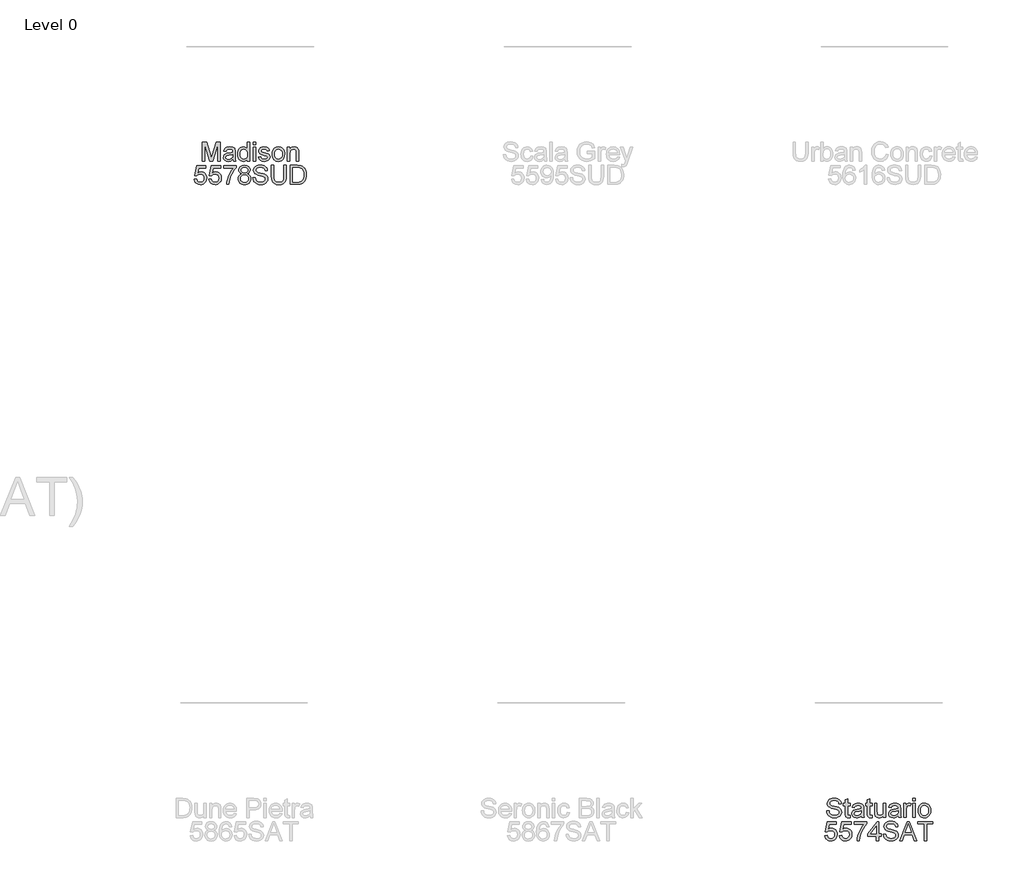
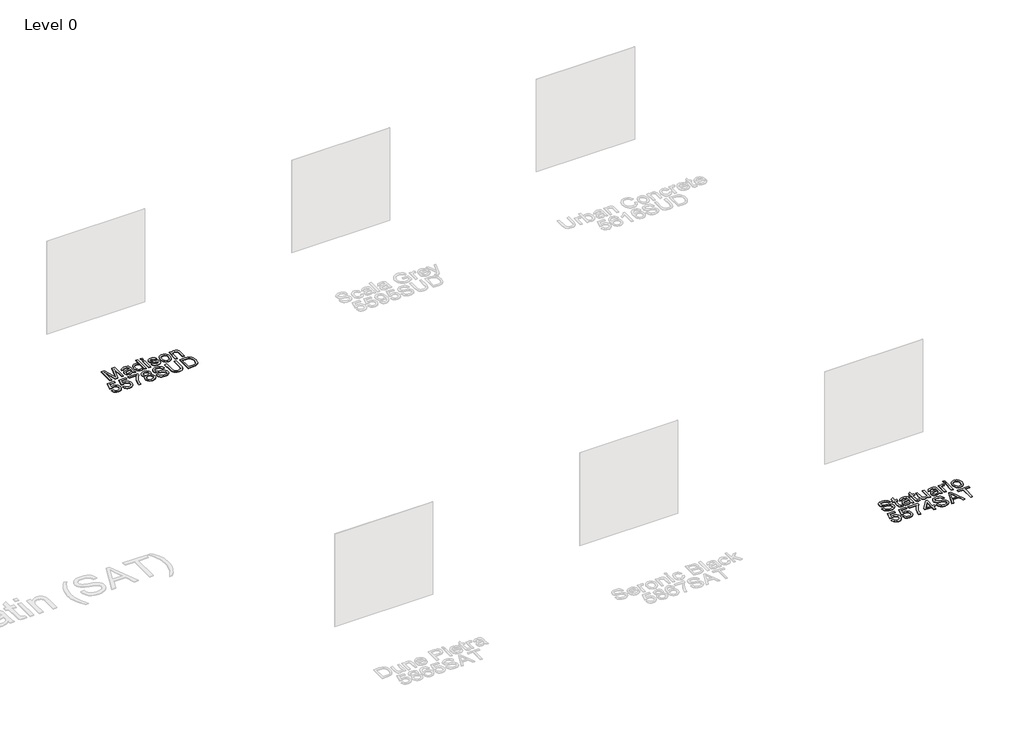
# One storey, part 14 of 29: 2 proxies.
"""IFC4 building model written with IfcOpenShell, lengths in millimetres."""

from ifc_helpers import new_model, si_unit, origin, origin_with_axes, place, context, project, spatial, polyline, outline, extrude, element, save

model = new_model("IFC4")

# Units and contexts
model_context = context("Model", 3, world=origin())
ifc_project = project(units=[si_unit("LENGTHUNIT", "METRE", prefix="MILLI")], contexts=[model_context])

# Site, building, storey
site = spatial("IfcSite", under=ifc_project)
building = spatial("IfcBuilding", under=site)
storey = spatial("IfcBuildingStorey", under=building, Name="Level 0", Elevation=0.0)

# Proxies
placement = place(None, origin())
element("IfcBuildingElementProxy", 1, Name="300mm Arial", ObjectType="300mm Arial", at=placement, inside=storey, context=model_context, shape_type="SweptSolid", body=[
    extrude(outline(polyline([(-104.0803824, -17012.860494), (-104.0803824, -16711.4915635), (-39.2595749, -16711.4915635), (22.3974475, -16923.9066275), (34.8318589, -16968.2731962), (48.29634, -16920.2278076), (108.9232928, -16711.4915635), (173.7441003, -16711.4915635), (173.7441003, -17012.860494), (136.072984, -17012.860494), (136.072984, -16749.1626798), (60.3628694, -17012.860494), (9.3008485, -17012.860494), (-66.4092661, -16749.1626798), (-66.4092661, -17012.860494), (-104.0803824, -17012.860494)])), origin_with_axes(), (0.0, 0.0, 1.0), 10.0),
    extrude(outline(polyline([(376.2263505, -16984.6071568), (358.2277239, -17000.0398064), (339.6956684, -17010.1381672), (320.2071197, -17015.7115794), (299.3390135, -17017.5693835), (267.8575117, -17013.0996173), (244.6349608, -16999.6903186), (230.3151541, -16979.3280501), (225.5418852, -16953.9993748), (227.344507, -16938.3827841), (232.7523724, -16924.2009331), (241.0940966, -16912.0608273), (251.6982951, -16902.5694718), (278.0754342, -16890.2086368), (310.6697789, -16884.5432541), (349.1870238, -16878.5835657), (376.0056213, -16871.5938078), (376.2263505, -16863.2060983), (373.6327824, -16846.3938912), (365.8520782, -16835.3942195), (348.4512598, -16827.2272392), (324.2078364, -16824.5049125), (301.7670346, -16826.3167313), (286.0952617, -16831.7521878), (275.4082897, -16841.8045633), (267.9218911, -16857.4671392), (230.2507748, -16852.7582497), (236.7898773, -16832.156858), (246.5479472, -16815.9700502), (260.4354925, -16803.590821), (279.3630211, -16794.4121652), (302.5119957, -16788.7283884), (329.0638787, -16786.8337961), (354.5305098, -16788.5076592), (374.7180343, -16793.5292485), (389.9391518, -16801.0800264), (400.5065622, -16810.3414556), (407.5147142, -16821.7917827), (412.0580568, -16835.9092543), (413.8974668, -16868.8714811), (413.8974668, -16915.7396473), (415.8104532, -16981.1858542), (423.3152459, -17012.860494), (385.6441295, -17012.860494), (376.2263505, -16984.6071568)]), holes=[polyline([(376.2263505, -16909.2649241), (315.4522449, -16920.8164188), (283.0418411, -16926.9232599), (268.3633495, -16936.8560738), (263.2130016, -16951.3506244), (266.0181018, -16962.5526311), (274.4334024, -16971.7312869), (288.2749625, -16977.8565221), (307.358841, -16979.8982672), (327.5923507, -16977.64499), (345.4714157, -16970.8851583), (359.9659663, -16960.9247533), (370.045933, -16949.069756), (374.5156992, -16936.8560738), (376.0056213, -16919.933502), (376.2263505, -16909.2649241)])]), origin_with_axes(), (0.0, 0.0, 1.0), 10.0),
    extrude(outline(polyline([(602.2530483, -17012.860494), (602.2530483, -16977.3230932), (590.9820637, -16994.9308452), (577.3290431, -17007.507811), (561.2939867, -17015.0539904), (542.8768943, -17017.5693835), (518.5231062, -17013.9273518), (496.2294573, -17003.0012565), (477.3571109, -16985.5544529), (463.2672305, -16962.350296), (454.4932449, -16934.3268851), (451.5685831, -16902.422319), (454.2633187, -16870.9132261), (462.3475255, -16842.4575538), (475.8120066, -16818.6739828), (494.6475647, -16801.181194), (517.4286573, -16790.4206456), (542.7297415, -16786.8337961), (561.1606294, -16789.3997731), (577.4578018, -16797.0977038), (591.2717708, -16808.8975188), (602.2530483, -16823.7691485), (602.2530483, -16711.4915635), (639.9241646, -16711.4915635), (639.9241646, -17012.860494), (602.2530483, -17012.860494)]), holes=[polyline([(489.2396994, -16902.2751662), (493.4887364, -16936.350236), (506.2358476, -16960.5844625), (524.758706, -16975.069816), (546.334985, -16979.8982672), (567.902067, -16975.2905452), (585.9558759, -16961.4673793), (598.1787552, -16938.1712519), (602.2530483, -16905.1446458), (598.1051788, -16869.037028), (585.6615703, -16844.0026582), (567.1479089, -16829.3793489), (544.7898807, -16824.5049125), (522.9928724, -16829.1862108), (505.1322016, -16843.230106), (493.2128249, -16867.3539678), (489.2396994, -16902.2751662)])]), origin_with_axes(), (0.0, 0.0, 1.0), 10.0),
    extrude(outline(polyline([(696.4308391, -16749.1626798), (696.4308391, -16711.4915635), (734.1019554, -16711.4915635), (734.1019554, -16749.1626798), (696.4308391, -16749.1626798)])), origin_with_axes(), (0.0, 0.0, 1.0), 10.0),
    extrude(outline(polyline([(696.4308391, -17012.860494), (696.4308391, -16791.5426857), (734.1019554, -16791.5426857), (734.1019554, -17012.860494), (696.4308391, -17012.860494)])), origin_with_axes(), (0.0, 0.0, 1.0), 10.0),
    extrude(outline(polyline([(776.4819612, -16946.9360404), (814.1530775, -16942.2271509), (820.0943718, -16958.3403823), (831.5906841, -16970.1861825), (848.715591, -16977.470246), (871.5426688, -16979.8982672), (894.0938351, -16977.6725811), (909.9495491, -16970.9955229), (919.33054, -16961.3202265), (922.4575369, -16950.0998256), (919.3121459, -16940.4981055), (909.8759727, -16933.1772538), (871.1012104, -16922.4350996), (814.3738067, -16904.0042116), (800.0172119, -16894.7427824), (789.6153485, -16882.4831149), (783.2969752, -16868.0069584), (781.1908508, -16852.0960621), (782.8831079, -16837.5003439), (787.9598795, -16824.0266659), (795.9613129, -16812.2084568), (806.4275556, -16802.5791455), (830.3766735, -16791.4323211), (862.7870773, -16786.8337961), (887.3064123, -16788.6824032), (908.6251739, -16794.2282242), (925.7684749, -16802.9286334), (937.7614279, -16814.2410048), (945.707679, -16829.0022698), (950.7108741, -16848.0493601), (913.0397578, -16852.7582497), (908.284883, -16840.9032524), (898.876301, -16831.972917), (884.7220413, -16826.3719136), (865.7301333, -16824.5049125), (844.0986719, -16826.2891401), (829.6776977, -16831.6418232), (821.5658997, -16839.3673451), (818.8619671, -16848.2700893), (823.3501274, -16859.2329728), (837.4032196, -16867.5471059), (869.8504116, -16875.5669334), (925.1430755, -16893.2988455), (939.7479907, -16901.7785255), (950.8212387, -16913.3852025), (957.8017996, -16928.1556646), (960.1286532, -16946.1267001), (957.3971294, -16964.7047408), (949.202558, -16982.1791356), (935.8576386, -16997.1795239), (917.675071, -17008.3355454), (895.7125159, -17015.260924), (871.027634, -17017.5693835), (833.043818, -17013.1180114), (805.3239096, -16999.763895), (786.8194453, -16977.654187), (776.4819612, -16946.9360404)])), origin_with_axes(), (0.0, 0.0, 1.0), 10.0),
    extrude(outline(polyline([(993.09088, -16902.2015898), (995.1280265, -16873.5389839), (1001.2394662, -16848.8403064), (1011.4251989, -16828.1055575), (1025.6852248, -16811.334737), (1040.0418196, -16800.6155754), (1055.8883366, -16792.9590314), (1073.2247756, -16788.3651049), (1092.0511367, -16786.8337961), (1112.8341702, -16788.698498), (1131.6260423, -16794.2926036), (1148.4267532, -16803.6161129), (1163.2363028, -16816.669026), (1175.3235256, -16833.0098843), (1183.9572561, -16852.1972296), (1189.1374945, -16874.2310619), (1190.8642406, -16899.1113811), (1187.81082, -16937.1687735), (1178.6505584, -16966.1394806), (1163.65017, -16987.8353213), (1143.0763694, -17004.0681143), (1118.6398079, -17014.1940662), (1092.0511367, -17017.5693835), (1070.9646006, -17015.7115794), (1051.9979845, -17010.1381672), (1035.1512883, -17000.8491468), (1020.4245122, -16987.8445183), (1008.4660481, -16971.3450108), (999.924288, -16951.5713536), (994.799232, -16928.5235466), (993.09088, -16902.2015898)]), holes=[polyline([(1030.7619963, -16902.1280134), (1035.1213979, -16936.2214773), (1048.1996029, -16960.5108861), (1067.8812896, -16975.0514219), (1092.0511367, -16979.8982672), (1116.1106192, -16975.0238308), (1135.7555177, -16960.4005215), (1148.8337226, -16935.789216), (1153.1931243, -16900.950791), (1148.8061315, -16867.8506085), (1135.6451531, -16843.8922936), (1115.9726634, -16829.3517577), (1092.0511367, -16824.5049125), (1067.8812896, -16829.3333636), (1048.1996029, -16843.8187172), (1035.1213979, -16868.0529436), (1030.7619963, -16902.1280134)])]), origin_with_axes(), (0.0, 0.0, 1.0), 10.0),
    extrude(outline(polyline([(1233.2442464, -17012.860494), (1233.2442464, -16791.5426857), (1270.9153627, -16791.5426857), (1270.9153627, -16822.4447733), (1284.0027647, -16806.8649708), (1299.720523, -16795.7365404), (1318.0686375, -16789.0594822), (1339.0471083, -16786.8337961), (1357.615952, -16788.6272209), (1374.6212972, -16794.0074951), (1388.8031481, -16802.303234), (1398.9015089, -16812.8430532), (1410.1954861, -16840.5445674), (1412.1820489, -16876.964885), (1412.1820489, -17012.860494), (1374.5109326, -17012.860494), (1374.5109326, -16882.0416565), (1370.169925, -16848.7115477), (1364.1642515, -16838.7879309), (1354.8292458, -16831.0900002), (1342.863884, -16826.1511844), (1328.9671416, -16824.5049125), (1306.9034189, -16828.2021265), (1288.0954519, -16839.2937687), (1280.5791629, -16848.3482643), (1275.210385, -16860.7228949), (1270.9153627, -16895.4325611), (1270.9153627, -17012.860494), (1233.2442464, -17012.860494)])), origin_with_axes(), (0.0, 0.0, 1.0), 10.0),
    extrude(outline(polyline([(-233.5748447, -17298.7338254), (-195.9037284, -17294.0249358), (-188.9875469, -17316.6404815), (-176.9210175, -17332.8364863), (-159.7593224, -17342.5761621), (-137.557644, -17345.8227207), (-110.5551055, -17341.3069693), (-90.3215958, -17327.7597148), (-77.6848493, -17306.7444558), (-73.4726004, -17279.8246908), (-77.4181348, -17254.4776213), (-89.254738, -17235.0902402), (-109.0743805, -17222.7845875), (-136.9690328, -17218.6827032), (-155.2435709, -17220.3197781), (-170.0416242, -17225.2310027), (-191.1948389, -17242.2271509), (-228.8659552, -17237.5182614), (-195.9037284, -17082.1249066), (-49.9281527, -17082.1249066), (-49.9281527, -17119.7960229), (-165.4430992, -17119.7960229), (-181.5563306, -17202.790201), (-154.6457627, -17186.4562404), (-126.4476077, -17181.0115869), (-108.1017925, -17182.6992456), (-91.2504978, -17187.7622215), (-75.8937238, -17196.2005148), (-62.0314704, -17208.0141254), (-50.5558514, -17222.4810848), (-42.3589807, -17238.8794248), (-37.4408583, -17257.2091452), (-35.8014841, -17277.470246), (-41.7059901, -17315.1413624), (-49.0866227, -17331.9351754), (-59.4195082, -17347.3678251), (-75.0728871, -17363.1729553), (-93.3382282, -17374.4623341), (-114.2155314, -17381.2359613), (-137.7047968, -17383.4938371), (-174.7045285, -17377.6904986), (-190.3831992, -17370.4363255), (-204.1810733, -17360.2804832), (-215.6612908, -17347.7288093), (-224.3869919, -17333.2871418), (-233.5748447, -17298.7338254)])), origin_with_axes(), (0.0, 0.0, 1.0), 10.0),
    extrude(outline(polyline([(-2.8392574, -17298.7338254), (34.8318589, -17294.0249358), (41.7480405, -17316.6404815), (53.8145699, -17332.8364863), (70.976265, -17342.5761621), (93.1779434, -17345.8227207), (120.1804818, -17341.3069693), (140.4139916, -17327.7597148), (153.0507381, -17306.7444558), (157.2629869, -17279.8246908), (153.3174525, -17254.4776213), (141.4808494, -17235.0902402), (121.6612069, -17222.7845875), (93.7665546, -17218.6827032), (75.4920165, -17220.3197781), (60.6939632, -17225.2310027), (39.5407485, -17242.2271509), (1.8696322, -17237.5182614), (34.8318589, -17082.1249066), (180.8074346, -17082.1249066), (180.8074346, -17119.7960229), (65.2924881, -17119.7960229), (49.1792568, -17202.790201), (76.0898247, -17186.4562404), (104.2879796, -17181.0115869), (122.6337949, -17182.6992456), (139.4850895, -17187.7622215), (154.8418636, -17196.2005148), (168.704117, -17208.0141254), (180.179736, -17222.4810848), (188.3766067, -17238.8794248), (193.2947291, -17257.2091452), (194.9341033, -17277.470246), (189.0295972, -17315.1413624), (181.6489647, -17331.9351754), (171.3160792, -17347.3678251), (155.6627003, -17363.1729553), (137.3973592, -17374.4623341), (116.520056, -17381.2359613), (93.0307906, -17383.4938371), (56.0310589, -17377.6904986), (40.3523881, -17370.4363255), (26.5545141, -17360.2804832), (15.0742965, -17347.7288093), (6.3485955, -17333.2871418), (-2.8392574, -17298.7338254)])), origin_with_axes(), (0.0, 0.0, 1.0), 10.0),
    extrude(outline(polyline([(227.89633, -17119.7960229), (227.89633, -17082.1249066), (425.6696906, -17082.1249066), (425.6696906, -17112.5855358), (397.4807327, -17148.2608923), (369.5676864, -17193.6299393), (344.9471838, -17244.5540045), (326.6358575, -17296.8944154), (317.6595368, -17336.0554538), (312.6563417, -17378.7849475), (274.9852254, -17378.7849475), (279.0595185, -17339.9550029), (289.9580226, -17293.8042066), (307.3864321, -17244.8850983), (331.0504415, -17197.7502177), (358.6783793, -17155.1402856), (387.9985743, -17119.7960229), (227.89633, -17119.7960229)])), origin_with_axes(), (0.0, 0.0, 1.0), 10.0),
    extrude(outline(polyline([(513.5199111, -17212.7965913), (493.3507807, -17202.8637774), (479.1965209, -17189.3992964), (470.8364026, -17172.6790597), (468.0496965, -17152.9789789), (469.5672097, -17137.6153071), (474.1197494, -17123.5300252), (481.7073155, -17110.7231332), (492.3299082, -17099.1946312), (505.477091, -17089.6664875), (520.6384277, -17082.8606706), (557.0035629, -17077.4160171), (593.5894273, -17082.9894293), (608.9163109, -17089.9561946), (622.2658288, -17099.709666), (633.0815595, -17111.4634957), (640.8070814, -17124.4313361), (645.4423945, -17138.613187), (646.9874989, -17154.0090485), (644.237581, -17173.0745329), (635.9878273, -17189.509661), (622.1462672, -17202.8913686), (602.6209303, -17212.7965913), (625.8066931, -17224.7435591), (642.6832796, -17242.3375155), (652.9747784, -17264.732332), (656.405278, -17291.0818799), (654.7038238, -17309.8714528), (649.5994611, -17327.0975272), (641.09219, -17342.7601031), (629.1820104, -17356.8591806), (614.4943217, -17368.5118428), (597.6545234, -17376.8351729), (578.6626154, -17381.829171), (557.5185977, -17383.4938371), (536.37458, -17381.8222732), (517.382672, -17376.8075818), (500.5428737, -17368.4497627), (485.855185, -17356.748816), (473.9450054, -17342.5508703), (465.4377343, -17326.702054), (460.3333716, -17309.2023674), (458.6319174, -17290.0518103), (462.2003727, -17262.6813898), (472.9057388, -17240.1670117), (490.1961926, -17223.2812282), (513.5199111, -17212.7965913)]), holes=[polyline([(505.7208128, -17154.0826249), (509.0593419, -17170.52695), (519.0749292, -17183.6603373), (535.4732691, -17192.268776), (557.9600561, -17195.1382555), (579.9226112, -17192.2871701), (596.0726308, -17183.7339137), (606.0054447, -17171.0419848), (609.3163826, -17155.774882), (605.8950801, -17139.9283651), (595.6311724, -17126.822569), (579.2604236, -17118.0209923), (557.5185977, -17115.0871334), (535.638816, -17117.9566129), (519.2956584, -17126.5650516), (509.1145242, -17139.1834041), (505.7208128, -17154.0826249)]), polyline([(496.3030337, -17288.7274351), (502.5938158, -17317.0911369), (511.3034221, -17329.2588339), (524.8506765, -17338.317928), (541.0742725, -17343.9465226), (557.8129033, -17345.8227207), (583.4542784, -17341.8771864), (602.6945067, -17330.0405832), (614.7242479, -17312.1155329), (618.7341617, -17289.9046575), (614.5954892, -17267.316703), (602.1794719, -17248.9961796), (582.4977852, -17236.8560738), (556.5621045, -17232.8093718), (531.2794144, -17236.8008915), (512.2323241, -17248.7754504), (500.2853563, -17266.7464859), (496.3030337, -17288.7274351)])]), origin_with_axes(), (0.0, 0.0, 1.0), 10.0),
    extrude(outline(polyline([(689.3675048, -17275.1893777), (727.0386211, -17275.1893777), (731.3612345, -17296.0942721), (739.1787269, -17312.8972822), (751.3740151, -17326.2330045), (768.8300157, -17336.7360355), (790.1671714, -17343.5510494), (814.0059247, -17345.8227207), (834.9935926, -17344.1028724), (853.3692982, -17338.9433274), (868.259322, -17330.7763471), (878.7899441, -17320.0341929), (885.0531351, -17307.700949), (887.1408654, -17294.7606998), (885.5773669, -17282.1515444), (880.8868715, -17271.2530403), (871.3587278, -17261.9548229), (855.2822846, -17254.1465276), (800.4310791, -17239.7623415), (764.4246288, -17230.2433949), (741.3860189, -17221.1843008), (722.6332342, -17208.510766), (709.3434971, -17193.1516928), (701.4248372, -17175.4381747), (698.7852838, -17155.7013056), (702.0502366, -17133.637583), (711.8450947, -17113.0637824), (727.9123408, -17095.6261758), (749.9944576, -17082.9710352), (776.5003553, -17075.2731044), (805.8389444, -17072.7071275), (837.6239488, -17075.3926661), (865.4358277, -17083.4492818), (888.2812996, -17096.7114277), (905.1670831, -17115.013557), (915.8540551, -17137.2152354), (920.1030921, -17162.1760288), (882.4319758, -17162.1760288), (875.5157943, -17139.6984389), (861.0948201, -17123.4748429), (838.5620479, -17113.6523936), (807.3104724, -17110.3782438), (775.3231329, -17113.6156054), (753.3789719, -17123.3276901), (740.6870431, -17137.6199056), (736.4564002, -17154.5976597), (739.4546384, -17169.0738162), (748.4493532, -17180.7172813), (769.7129325, -17191.1283418), (809.9592228, -17201.7601314), (851.4931, -17211.8584922), (876.6194403, -17220.669266), (898.0945518, -17234.3360821), (913.076546, -17251.2034716), (921.8781228, -17271.0874934), (924.8119817, -17293.8042066), (921.4366644, -17317.0267576), (911.3107125, -17338.869751), (894.8479932, -17357.668521), (872.4623738, -17371.7584014), (845.5426088, -17380.5599781), (815.4774527, -17383.4938371), (778.5696915, -17380.3300519), (748.1918358, -17370.8386964), (723.9943976, -17354.9829824), (705.627889, -17332.7261217), (693.837271, -17305.6132187), (689.3675048, -17275.1893777)])), origin_with_axes(), (0.0, 0.0, 1.0), 10.0),
    extrude(outline(polyline([(1179.0920167, -17077.4160171), (1216.7631331, -17077.4160171), (1216.7631331, -17251.277048), (1214.2063532, -17291.9923878), (1206.5360136, -17323.3451308), (1192.2070099, -17347.533372), (1169.6742377, -17366.7552063), (1138.8825147, -17379.3091794), (1099.7766586, -17383.4938371), (1061.5261281, -17379.8518053), (1030.9459373, -17368.92571), (1008.026889, -17351.0926303), (992.7597862, -17326.7296452), (984.1789387, -17294.052527), (981.3186561, -17251.277048), (981.3186561, -17077.4160171), (1018.9897724, -17077.4160171), (1018.9897724, -17249.9526728), (1020.8475765, -17283.8070134), (1026.4209887, -17307.3790523), (1036.5193495, -17323.7038158), (1051.9519992, -17335.8163305), (1072.0751444, -17343.3211232), (1096.2449914, -17345.8227207), (1134.5599012, -17340.8747079), (1148.9027005, -17334.6896919), (1160.0357294, -17326.0306694), (1168.3728551, -17313.8537754), (1174.3279449, -17297.1151446), (1179.0920167, -17249.9526728), (1179.0920167, -17077.4160171)])), origin_with_axes(), (0.0, 0.0, 1.0), 10.0),
    extrude(outline(polyline([(1282.6875866, -17378.7849475), (1282.6875866, -17077.4160171), (1386.6510384, -17077.4160171), (1440.4353861, -17081.7570246), (1464.4580804, -17090.12634), (1484.7283783, -17103.3149095), (1505.5688934, -17126.270746), (1520.4129319, -17154.8183889), (1529.2972821, -17188.406015), (1532.2587321, -17226.4818015), (1530.2537752, -17258.8278259), (1524.2389046, -17287.2926953), (1515.0786429, -17311.5269217), (1503.6375129, -17331.1810173), (1490.4673375, -17346.6964405), (1476.1199397, -17358.5146496), (1459.6480233, -17367.2794381), (1440.1042923, -17373.6345996), (1391.6542336, -17378.7849475), (1282.6875866, -17378.7849475)]), holes=[polyline([(1320.3587029, -17341.1138312), (1387.0189204, -17341.1138312), (1414.591676, -17339.7526678), (1435.5057674, -17335.6691777), (1451.287905, -17329.1024841), (1463.464799, -17320.2917103), (1476.552201, -17303.9853408), (1486.3838473, -17282.8781114), (1492.5366737, -17256.8780514), (1494.5876158, -17225.8931903), (1490.568505, -17184.8375597), (1478.5111726, -17154.5240833), (1460.696487, -17133.7019623), (1439.4053165, -17121.1203981), (1417.737067, -17116.5954496), (1385.9888508, -17115.0871334), (1320.3587029, -17115.0871334), (1320.3587029, -17341.1138312)])]), origin_with_axes(), (0.0, 0.0, 1.0), 10.0),
])
element("IfcBuildingElementProxy", 2, Name="300mm Arial", ObjectType="300mm Arial", at=placement, inside=storey, context=model_context, shape_type="SweptSolid", body=[
    extrude(outline(polyline([(9732.3496088, -27257.3498647), (9770.0207251, -27257.3498647), (9774.3433386, -27278.2547591), (9782.160831, -27295.0577692), (9794.3561191, -27308.3934915), (9811.8121198, -27318.8965225), (9833.1492755, -27325.7115365), (9856.9880288, -27327.9832078), (9877.9756966, -27326.2633595), (9896.3514023, -27321.1038145), (9911.241426, -27312.9368342), (9921.7720481, -27302.1946799), (9928.0352391, -27289.861436), (9930.1229694, -27276.9211869), (9928.5594709, -27264.3120315), (9923.8689755, -27253.4135274), (9914.3408318, -27244.1153099), (9898.2643886, -27236.3070146), (9843.4131831, -27221.9228286), (9807.4067329, -27212.4038819), (9784.3681229, -27203.3447878), (9765.6153382, -27190.6712531), (9752.3256011, -27175.3121798), (9744.4069412, -27157.5986617), (9741.7673879, -27137.8617927), (9745.0323406, -27115.79807), (9754.8271987, -27095.2242694), (9770.8944448, -27077.7866629), (9792.9765616, -27065.1315222), (9819.4824594, -27057.4335915), (9848.8210485, -27054.8676146), (9880.6060529, -27057.5531531), (9908.4179317, -27065.6097688), (9931.2634036, -27078.8719147), (9948.1491872, -27097.174044), (9958.8361591, -27119.3757224), (9963.0851962, -27144.3365158), (9925.4140799, -27144.3365158), (9918.4978984, -27121.8589259), (9904.0769242, -27105.6353299), (9881.5441519, -27095.8128806), (9850.2925765, -27092.5387309), (9818.305237, -27095.7760924), (9796.361076, -27105.4881771), (9783.6691471, -27119.7803926), (9779.4385042, -27136.7581467), (9782.4367424, -27151.2343032), (9791.4314572, -27162.8777683), (9812.6950366, -27173.2888288), (9852.9413268, -27183.9206185), (9894.4752041, -27194.0189792), (9919.6015443, -27202.829753), (9941.0766558, -27216.4965691), (9956.0586501, -27233.3639586), (9964.8602268, -27253.2479805), (9967.7940857, -27275.9646937), (9964.4187684, -27299.1872446), (9954.2928165, -27321.0302381), (9937.8300972, -27339.829008), (9915.4444778, -27353.9188884), (9888.5247128, -27362.7204652), (9858.4595568, -27365.6543241), (9821.5517956, -27362.4905389), (9791.1739398, -27352.9991835), (9766.9765016, -27337.1434695), (9748.609993, -27314.8866088), (9736.819375, -27287.7737057), (9732.3496088, -27257.3498647)])), origin_with_axes(), (0.0, 0.0, 1.0), 10.0),
    extrude(outline(polyline([(10099.6429928, -27329.5283122), (10104.3518823, -27362.0490805), (10076.1721215, -27365.6543241), (10058.0907214, -27364.0908256), (10044.6078463, -27359.4003302), (10035.0797026, -27352.171449), (10028.8624969, -27342.9927932), (10025.4411944, -27327.2290497), (10024.3007602, -27300.2449053), (10024.3007602, -27177.2987426), (9996.0474229, -27177.2987426), (9996.0474229, -27139.6276263), (10024.3007602, -27139.6276263), (10024.3007602, -27085.8432786), (10061.9718765, -27063.6967824), (10061.9718765, -27139.6276263), (10099.6429928, -27139.6276263), (10099.6429928, -27177.2987426), (10061.9718765, -27177.2987426), (10061.9718765, -27299.1412594), (10063.9584393, -27318.5654287), (10070.3963742, -27325.444822), (10083.2354558, -27327.9832078), (10099.6429928, -27329.5283122)])), origin_with_axes(), (0.0, 0.0, 1.0), 10.0),
    extrude(outline(polyline([(10278.5807952, -27332.6920973), (10260.5821686, -27348.124747), (10242.0501131, -27358.2231078), (10222.5615644, -27363.79652), (10201.6934583, -27365.6543241), (10170.2119565, -27361.1845578), (10146.9894056, -27347.7752591), (10132.6695989, -27327.4129907), (10127.89633, -27302.0843153), (10129.6989518, -27286.4677246), (10135.1068171, -27272.2858737), (10143.4485414, -27260.1457679), (10154.0527399, -27250.6544124), (10180.4298789, -27238.2935774), (10213.0242237, -27232.6281946), (10251.5414686, -27226.6685063), (10278.360066, -27219.6787484), (10278.5807952, -27211.2910389), (10275.9872272, -27194.4788317), (10268.206523, -27183.4791601), (10250.8057046, -27175.3121798), (10226.5622811, -27172.589853), (10204.1214794, -27174.4016718), (10188.4497064, -27179.8371283), (10177.7627345, -27189.8895038), (10170.2763359, -27205.5520798), (10132.6052196, -27200.8431903), (10139.144322, -27180.2417985), (10148.9023919, -27164.0549907), (10162.7899373, -27151.6757616), (10181.7174659, -27142.4971058), (10204.8664405, -27136.813329), (10231.4183235, -27134.9187367), (10256.8849546, -27136.5925998), (10277.0724791, -27141.614189), (10292.2935966, -27149.164967), (10302.8610069, -27158.4263962), (10309.8691589, -27169.8767233), (10314.4125016, -27183.9941949), (10316.2519115, -27216.9564216), (10316.2519115, -27263.8245878), (10318.1648979, -27329.2707948), (10325.6696906, -27360.9454346), (10287.9985743, -27360.9454346), (10278.5807952, -27332.6920973)]), holes=[polyline([(10278.5807952, -27257.3498647), (10217.8066896, -27268.9013594), (10185.3962859, -27275.0082005), (10170.7177943, -27284.9410143), (10165.5674463, -27299.435565), (10168.3725465, -27310.6375717), (10176.7878472, -27319.8162275), (10190.6294072, -27325.9414627), (10209.7132857, -27327.9832078), (10229.9467955, -27325.7299306), (10247.8258604, -27318.9700989), (10262.3204111, -27309.0096939), (10272.4003777, -27297.1546966), (10276.870144, -27284.9410143), (10278.360066, -27268.0184426), (10278.5807952, -27257.3498647)])]), origin_with_axes(), (0.0, 0.0, 1.0), 10.0),
    extrude(outline(polyline([(10448.1008186, -27329.5283122), (10452.8097082, -27362.0490805), (10424.6299473, -27365.6543241), (10406.5485473, -27364.0908256), (10393.0656721, -27359.4003302), (10383.5375285, -27352.171449), (10377.3203227, -27342.9927932), (10373.8990202, -27327.2290497), (10372.758586, -27300.2449053), (10372.758586, -27177.2987426), (10344.5052488, -27177.2987426), (10344.5052488, -27139.6276263), (10372.758586, -27139.6276263), (10372.758586, -27085.8432786), (10410.4297023, -27063.6967824), (10410.4297023, -27139.6276263), (10448.1008186, -27139.6276263), (10448.1008186, -27177.2987426), (10410.4297023, -27177.2987426), (10410.4297023, -27299.1412594), (10412.4162651, -27318.5654287), (10418.8542, -27325.444822), (10431.6932816, -27327.9832078), (10448.1008186, -27329.5283122)])), origin_with_axes(), (0.0, 0.0, 1.0), 10.0),
    extrude(outline(polyline([(10627.0386211, -27360.9454346), (10627.0386211, -27322.9064362), (10613.4085932, -27341.6086372), (10597.5344851, -27354.9673521), (10579.4162968, -27362.9825811), (10559.0540284, -27365.6543241), (10540.7059139, -27363.7781259), (10523.6269922, -27358.1495314), (10509.2979885, -27349.6882455), (10499.1996278, -27339.3139732), (10487.9792269, -27311.5756708), (10485.7719349, -27276.5533049), (10485.7719349, -27139.6276263), (10523.4430512, -27139.6276263), (10523.4430512, -27258.8213927), (10525.7239196, -27297.228273), (10531.2145584, -27310.0397635), (10540.6231404, -27319.7794393), (10553.3242663, -27325.9322657), (10568.6925366, -27327.9832078), (10584.9437238, -27325.8862804), (10600.1464472, -27319.5954983), (10612.6820262, -27309.6902756), (10620.93178, -27296.7500264), (10625.5119108, -27279.0273113), (10627.0386211, -27254.7746907), (10627.0386211, -27139.6276263), (10664.7097374, -27139.6276263), (10664.7097374, -27360.9454346), (10627.0386211, -27360.9454346)])), origin_with_axes(), (0.0, 0.0, 1.0), 10.0),
    extrude(outline(polyline([(10857.7742084, -27332.6920973), (10839.7755818, -27348.124747), (10821.2435263, -27358.2231078), (10801.7549776, -27363.79652), (10780.8868715, -27365.6543241), (10749.4053697, -27361.1845578), (10726.1828188, -27347.7752591), (10711.8630121, -27327.4129907), (10707.0897432, -27302.0843153), (10708.892365, -27286.4677246), (10714.3002303, -27272.2858737), (10722.6419546, -27260.1457679), (10733.2461531, -27250.6544124), (10759.6232921, -27238.2935774), (10792.2176369, -27232.6281946), (10830.7348818, -27226.6685063), (10857.5534793, -27219.6787484), (10857.7742084, -27211.2910389), (10855.1806404, -27194.4788317), (10847.3999362, -27183.4791601), (10829.9991178, -27175.3121798), (10805.7556943, -27172.589853), (10783.3148926, -27174.4016718), (10767.6431196, -27179.8371283), (10756.9561477, -27189.8895038), (10749.4697491, -27205.5520798), (10711.7986328, -27200.8431903), (10718.3377352, -27180.2417985), (10728.0958051, -27164.0549907), (10741.9833505, -27151.6757616), (10760.9108791, -27142.4971058), (10784.0598537, -27136.813329), (10810.6117367, -27134.9187367), (10836.0783678, -27136.5925998), (10856.2658923, -27141.614189), (10871.4870098, -27149.164967), (10882.0544201, -27158.4263962), (10889.0625721, -27169.8767233), (10893.6059148, -27183.9941949), (10895.4453248, -27216.9564216), (10895.4453248, -27263.8245878), (10897.3583111, -27329.2707948), (10904.8631038, -27360.9454346), (10867.1919875, -27360.9454346), (10857.7742084, -27332.6920973)]), holes=[polyline([(10857.7742084, -27257.3498647), (10797.0001028, -27268.9013594), (10764.5896991, -27275.0082005), (10749.9112075, -27284.9410143), (10744.7608595, -27299.435565), (10747.5659597, -27310.6375717), (10755.9812604, -27319.8162275), (10769.8228205, -27325.9414627), (10788.906699, -27327.9832078), (10809.1402087, -27325.7299306), (10827.0192737, -27318.9700989), (10841.5138243, -27309.0096939), (10851.5937909, -27297.1546966), (10856.0635572, -27284.9410143), (10857.5534793, -27268.0184426), (10857.7742084, -27257.3498647)])]), origin_with_axes(), (0.0, 0.0, 1.0), 10.0),
    extrude(outline(polyline([(10947.2431097, -27360.9454346), (10947.2431097, -27139.6276263), (10980.2053364, -27139.6276263), (10980.2053364, -27172.3691238), (10992.3822305, -27153.3864129), (11003.6026313, -27142.2028002), (11014.8598204, -27136.7397526), (11027.147079, -27134.9187367), (11045.9090608, -27137.8250045), (11064.9653481, -27146.5438078), (11052.3837839, -27180.3153749), (11039.1400321, -27174.5212335), (11025.8962802, -27172.589853), (11014.6482882, -27174.4476571), (11004.5959127, -27180.0210693), (10996.4749177, -27188.8870254), (10991.0210671, -27200.6224611), (10986.4409363, -27221.6653112), (10984.914226, -27244.6211477), (10984.914226, -27360.9454346), (10947.2431097, -27360.9454346)])), origin_with_axes(), (0.0, 0.0, 1.0), 10.0),
    extrude(outline(polyline([(11088.5097958, -27097.2476204), (11088.5097958, -27059.5765041), (11126.1809121, -27059.5765041), (11126.1809121, -27097.2476204), (11088.5097958, -27097.2476204)])), origin_with_axes(), (0.0, 0.0, 1.0), 10.0),
    extrude(outline(polyline([(11088.5097958, -27360.9454346), (11088.5097958, -27139.6276263), (11126.1809121, -27139.6276263), (11126.1809121, -27360.9454346), (11088.5097958, -27360.9454346)])), origin_with_axes(), (0.0, 0.0, 1.0), 10.0),
    extrude(outline(polyline([(11173.2698075, -27250.2865304), (11175.3069541, -27221.6239245), (11181.4183937, -27196.925247), (11191.6041264, -27176.190498), (11205.8641523, -27159.4196776), (11220.2207471, -27148.700516), (11236.0672641, -27141.0439719), (11253.4037031, -27136.4500455), (11272.2300642, -27134.9187367), (11293.0130977, -27136.7834386), (11311.8049698, -27142.3775442), (11328.6056807, -27151.7010535), (11343.4152303, -27164.7539665), (11355.5024531, -27181.0948249), (11364.1361837, -27200.2821702), (11369.316422, -27222.3160025), (11371.0431681, -27247.1963216), (11367.9897476, -27285.253714), (11358.8294859, -27314.2244212), (11343.8290975, -27335.9202618), (11323.2552969, -27352.1530549), (11298.8187354, -27362.2790068), (11272.2300642, -27365.6543241), (11251.1435281, -27363.79652), (11232.176912, -27358.2231078), (11215.3302159, -27348.9340874), (11200.6034398, -27335.9294589), (11188.6449756, -27319.4299514), (11180.1032156, -27299.6562942), (11174.9781595, -27276.6084872), (11173.2698075, -27250.2865304)]), holes=[polyline([(11210.9409238, -27250.212954), (11215.3003255, -27284.3064179), (11228.3785304, -27308.5958266), (11248.0602171, -27323.1363625), (11272.2300642, -27327.9832078), (11296.2895467, -27323.1087713), (11315.9344452, -27308.485462), (11329.0126502, -27283.8741566), (11333.3720518, -27249.0357316), (11328.985059, -27215.9355491), (11315.8240806, -27191.9772342), (11296.151591, -27177.4366983), (11272.2300642, -27172.589853), (11248.0602171, -27177.4183042), (11228.3785304, -27191.9036578), (11215.3003255, -27216.1378842), (11210.9409238, -27250.212954)])]), origin_with_axes(), (0.0, 0.0, 1.0), 10.0),
    extrude(outline(polyline([(9701.7418268, -27646.8187659), (9739.4129431, -27642.1098764), (9746.3291246, -27664.7254221), (9758.3956541, -27680.9214269), (9775.5573491, -27690.6611027), (9797.7590275, -27693.9076613), (9824.761566, -27689.3919098), (9844.9950757, -27675.8446554), (9857.6318223, -27654.8293964), (9861.8440711, -27627.9096314), (9857.8985367, -27602.5625619), (9846.0619335, -27583.1751808), (9826.242291, -27570.869528), (9798.3476387, -27566.7676438), (9780.0731006, -27568.4047187), (9765.2750474, -27573.3159433), (9744.1218326, -27590.3120915), (9706.4507163, -27585.6032019), (9739.4129431, -27430.2098472), (9885.3885188, -27430.2098472), (9885.3885188, -27467.8809635), (9769.8735723, -27467.8809635), (9753.7603409, -27550.8751416), (9780.6709089, -27534.541181), (9808.8690638, -27529.0965275), (9827.214879, -27530.7841861), (9844.0661737, -27535.8471621), (9859.4229477, -27544.2854554), (9873.2852012, -27556.0990659), (9884.7608201, -27570.5660254), (9892.9576908, -27586.9643653), (9897.8758133, -27605.2940857), (9899.5151874, -27625.5551866), (9893.6106814, -27663.2263029), (9886.2300489, -27680.020116), (9875.8971633, -27695.4527657), (9860.2437844, -27711.2578959), (9841.9784434, -27722.5472746), (9821.1011401, -27729.3209019), (9797.6118747, -27731.5787776), (9760.6121431, -27725.7754392), (9744.9334723, -27718.5212661), (9731.1355982, -27708.3654237), (9719.6553807, -27695.8137499), (9710.9296796, -27681.3720823), (9701.7418268, -27646.8187659)])), origin_with_axes(), (0.0, 0.0, 1.0), 10.0),
    extrude(outline(polyline([(9932.4774142, -27646.8187659), (9970.1485305, -27642.1098764), (9977.064712, -27664.7254221), (9989.1312414, -27680.9214269), (10006.2929365, -27690.6611027), (10028.4946149, -27693.9076613), (10055.4971534, -27689.3919098), (10075.7306631, -27675.8446554), (10088.3674096, -27654.8293964), (10092.5796585, -27627.9096314), (10088.6341241, -27602.5625619), (10076.7975209, -27583.1751808), (10056.9778784, -27570.869528), (10029.0832261, -27566.7676438), (10010.808688, -27568.4047187), (9996.0106347, -27573.3159433), (9974.85742, -27590.3120915), (9937.1863037, -27585.6032019), (9970.1485305, -27430.2098472), (10116.1241062, -27430.2098472), (10116.1241062, -27467.8809635), (10000.6091597, -27467.8809635), (9984.4959283, -27550.8751416), (10011.4064962, -27534.541181), (10039.6046512, -27529.0965275), (10057.9504664, -27530.7841861), (10074.8017611, -27535.8471621), (10090.1585351, -27544.2854554), (10104.0207885, -27556.0990659), (10115.4964075, -27570.5660254), (10123.6932782, -27586.9643653), (10128.6114006, -27605.2940857), (10130.2507748, -27625.5551866), (10124.3462688, -27663.2263029), (10116.9656362, -27680.020116), (10106.6327507, -27695.4527657), (10090.9793718, -27711.2578959), (10072.7140307, -27722.5472746), (10051.8367275, -27729.3209019), (10028.3474621, -27731.5787776), (9991.3477305, -27725.7754392), (9975.6690597, -27718.5212661), (9961.8711856, -27708.3654237), (9950.3909681, -27695.8137499), (9941.665267, -27681.3720823), (9932.4774142, -27646.8187659)])), origin_with_axes(), (0.0, 0.0, 1.0), 10.0),
    extrude(outline(polyline([(10163.2130016, -27467.8809635), (10163.2130016, -27430.2098472), (10360.9863622, -27430.2098472), (10360.9863622, -27460.6704764), (10332.7974043, -27496.3458329), (10304.8843579, -27541.7148799), (10280.2638554, -27592.6389451), (10261.9525291, -27644.979356), (10252.9762084, -27684.1403943), (10247.9730132, -27726.8698881), (10210.3018969, -27726.8698881), (10214.37619, -27688.0399435), (10225.2746941, -27641.8891472), (10242.7031037, -27592.9700389), (10266.367113, -27545.8351583), (10293.9950508, -27503.2252262), (10323.3152459, -27467.8809635), (10163.2130016, -27467.8809635)])), origin_with_axes(), (0.0, 0.0, 1.0), 10.0),
    extrude(outline(polyline([(10516.3797169, -27726.8698881), (10516.3797169, -27656.236545), (10379.8219203, -27656.236545), (10379.8219203, -27618.5654287), (10525.797496, -27430.2098472), (10554.0508332, -27430.2098472), (10554.0508332, -27618.5654287), (10591.7219495, -27618.5654287), (10591.7219495, -27656.236545), (10554.0508332, -27656.236545), (10554.0508332, -27726.8698881), (10516.3797169, -27726.8698881)]), holes=[polyline([(10516.3797169, -27618.5654287), (10516.3797169, -27502.1675654), (10426.1750517, -27618.5654287), (10516.3797169, -27618.5654287)])]), origin_with_axes(), (0.0, 0.0, 1.0), 10.0),
    extrude(outline(polyline([(10624.6841763, -27623.2743182), (10662.3552926, -27623.2743182), (10666.6779061, -27644.1792126), (10674.4953985, -27660.9822228), (10686.6906866, -27674.3179451), (10704.1466873, -27684.820976), (10725.483843, -27691.63599), (10749.3225963, -27693.9076613), (10770.3102641, -27692.187813), (10788.6859698, -27687.028268), (10803.5759935, -27678.8612877), (10814.1066156, -27668.1191335), (10820.3698066, -27655.7858896), (10822.4575369, -27642.8456404), (10820.8940384, -27630.236485), (10816.203543, -27619.3379809), (10806.6753993, -27610.0397635), (10790.5989561, -27602.2314681), (10735.7477506, -27587.8472821), (10699.7413004, -27578.3283355), (10676.7026904, -27569.2692414), (10657.9499057, -27556.5957066), (10644.6601686, -27541.2366333), (10636.7415087, -27523.5231153), (10634.1019554, -27503.7862462), (10637.3669081, -27481.7225236), (10647.1617662, -27461.148723), (10663.2290123, -27443.7111164), (10685.3111291, -27431.0559758), (10711.8170269, -27423.358045), (10741.155616, -27420.7920681), (10772.9406204, -27423.4776067), (10800.7524992, -27431.5342224), (10823.5979711, -27444.7963683), (10840.4837547, -27463.0984975), (10851.1707266, -27485.300176), (10855.4197637, -27510.2609693), (10817.7486474, -27510.2609693), (10810.8324659, -27487.7833794), (10796.4114917, -27471.5597834), (10773.8787194, -27461.7373342), (10742.627144, -27458.4631844), (10710.6398045, -27461.700546), (10688.6956435, -27471.4126306), (10676.0037146, -27485.7048461), (10671.7730717, -27502.6826002), (10674.7713099, -27517.1587567), (10683.7660247, -27528.8022219), (10705.0296041, -27539.2132823), (10745.2758943, -27549.845072), (10786.8097716, -27559.9434328), (10811.9361118, -27568.7542066), (10833.4112233, -27582.4210227), (10848.3932176, -27599.2884122), (10857.1947943, -27619.172434), (10860.1286532, -27641.8891472), (10856.7533359, -27665.1116981), (10846.627384, -27686.9546916), (10830.1646647, -27705.7534616), (10807.7790453, -27719.843342), (10780.8592803, -27728.6449187), (10750.7941243, -27731.5787776), (10713.8863631, -27728.4149925), (10683.5085073, -27718.923637), (10659.3110691, -27703.067923), (10640.9445605, -27680.8110623), (10629.1539425, -27653.6981592), (10624.6841763, -27623.2743182)])), origin_with_axes(), (0.0, 0.0, 1.0), 10.0),
    extrude(outline(polyline([(10881.5393853, -27726.8698881), (11001.8367978, -27425.5009576), (11033.9161077, -27425.5009576), (11154.2135202, -27726.8698881), (11114.4086883, -27726.8698881), (11079.9013571, -27632.6920973), (10955.777972, -27632.6920973), (10921.3442172, -27726.8698881), (10881.5393853, -27726.8698881)]), holes=[polyline([(10969.610335, -27595.020981), (11066.1425705, -27595.020981), (11038.9928793, -27520.9295472), (11017.8764527, -27463.1720739), (10999.114471, -27514.4548241), (10969.610335, -27595.020981)])]), origin_with_axes(), (0.0, 0.0, 1.0), 10.0),
    extrude(outline(polyline([(11269.802043, -27726.8698881), (11269.802043, -27463.1720739), (11170.9153627, -27463.1720739), (11170.9153627, -27425.5009576), (11406.3598397, -27425.5009576), (11406.3598397, -27463.1720739), (11307.4731594, -27463.1720739), (11307.4731594, -27726.8698881), (11269.802043, -27726.8698881)])), origin_with_axes(), (0.0, 0.0, 1.0), 10.0),
])

save(model, "model.ifc")
